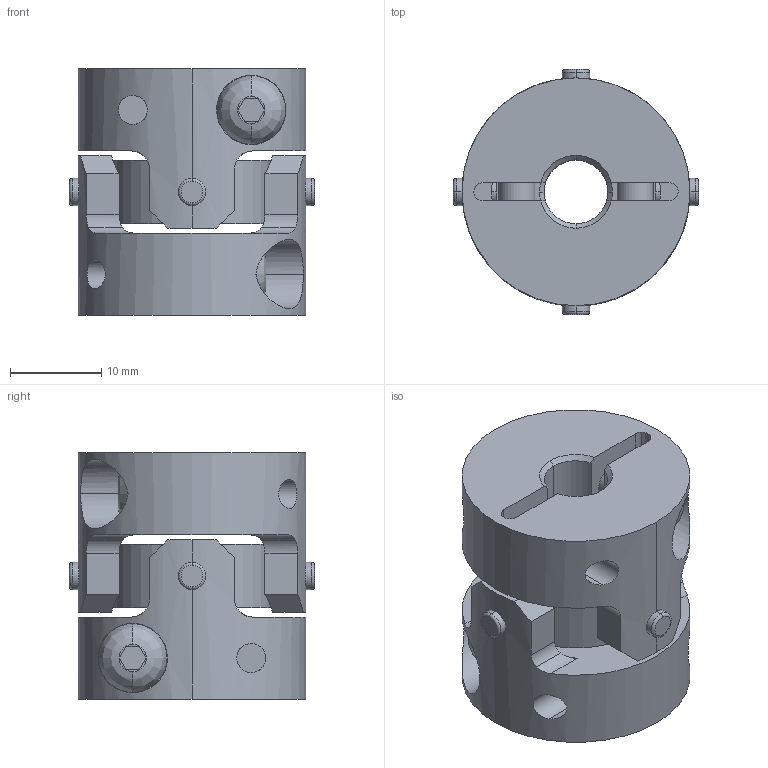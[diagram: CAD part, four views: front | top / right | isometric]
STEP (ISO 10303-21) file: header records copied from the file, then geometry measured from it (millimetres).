
FILE_DESCRIPTION((''),'2;1');
FILE_NAME('UA-25C-7×7.stp','2013-05-16T09:20:30',(''),(''),'AutoCAD STEP 2000i','AutoCAD 2000i',', , ');
FILE_SCHEMA(('CONFIG_CONTROL_DESIGN'));
Length unit declared in the file: millimetre
Products named in the file (6): UA-25C-5×5; 忣兜1; UA-2502-D05-1; BTN-M4; UA-2502-D05; UA25-SEN
Assembly tree (6 placements, depth 3):
  UA-25C-5×5
    忣兜1
    UA-2502-D05-1
      BTN-M4
    UA-2502-D05
      BTN-M4
    UA25-SEN
Bounding box: 26.89 x 26.89 x 27 mm (x, y, z)
Volume: 9220.2 mm3; surface area: 6479.6 mm2
Topology: 1 solids, 1 shells, 206 faces, 554 edges, 364 vertices
Faces by surface type: cylinder 96, plane 78, cone 16, bspline 8, torus 8
Entity records: 8291 total; most frequent: CARTESIAN_POINT 2975, ORIENTED_EDGE 1108, DIRECTION 1064, EDGE_CURVE 554, AXIS2_PLACEMENT_3D 409, VERTEX_POINT 364, VECTOR 246, LINE 246
